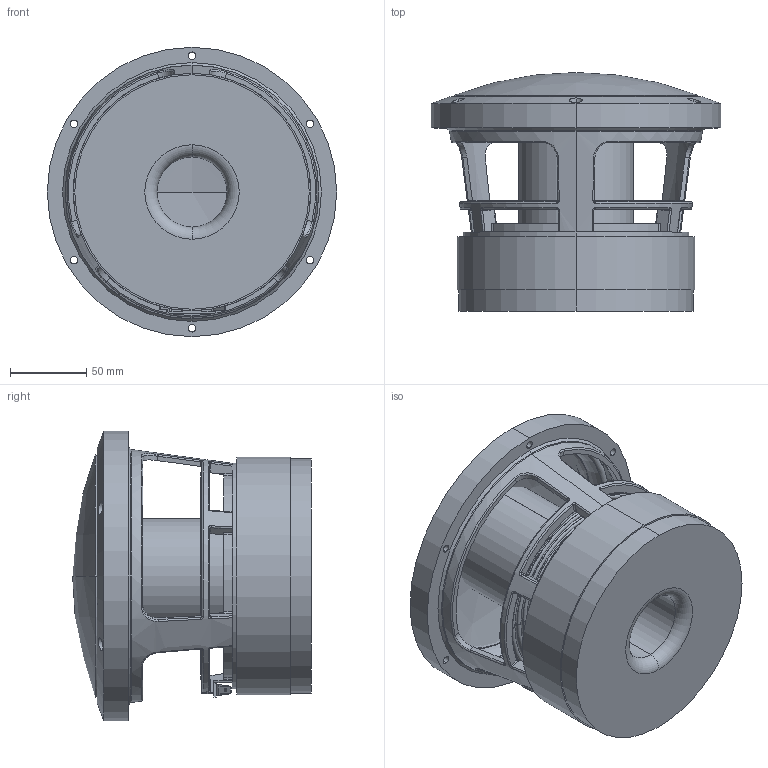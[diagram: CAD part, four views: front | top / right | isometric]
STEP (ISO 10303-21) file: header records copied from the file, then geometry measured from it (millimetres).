
FILE_DESCRIPTION (( 'STEP AP214' ), '1' );
FILE_NAME ('AS190-9-251.STEP', '2017-12-13T09:52:18', ( 'Thiel' ), ( '' ), 'SwSTEP 2.0', 'SolidWorks 2015', '' );
FILE_SCHEMA (( 'AUTOMOTIVE_DESIGN' ));
Length unit declared in the file: millimetre
Products named in the file (12): AS190-9-251; ASM_Standard; MGS_Standard; VC_Standard; GUS_Standard; ZEN_Standard; TRM_Standard; NIE_Standard; TRM_6p3_Standard; TRM_4p8_Standard; TRM_Träger_Standard; KRB_Standard
Assembly tree (12 placements, depth 3):
  AS190-9-251
    KRB_Standard
    TRM_Standard
      TRM_Träger_Standard
      TRM_4p8_Standard
      TRM_6p3_Standard
      NIE_Standard  x2
    ZEN_Standard
    GUS_Standard
    VC_Standard
    MGS_Standard
    ASM_Standard
Bounding box: 190 x 156.82 x 190 mm (x, y, z)
Volume: 1213760.7 mm3; surface area: 317450 mm2
Topology: 11 solids, 11 shells, 625 faces, 1488 edges, 855 vertices
Faces by surface type: cylinder 242, torus 134, plane 95, sphere 60, bspline 60, cone 34
Entity records: 21153 total; most frequent: CARTESIAN_POINT 6653, DIRECTION 3177, ORIENTED_EDGE 2836, EDGE_CURVE 1418, AXIS2_PLACEMENT_3D 1373, VERTEX_POINT 825, CIRCLE 809, EDGE_LOOP 673
